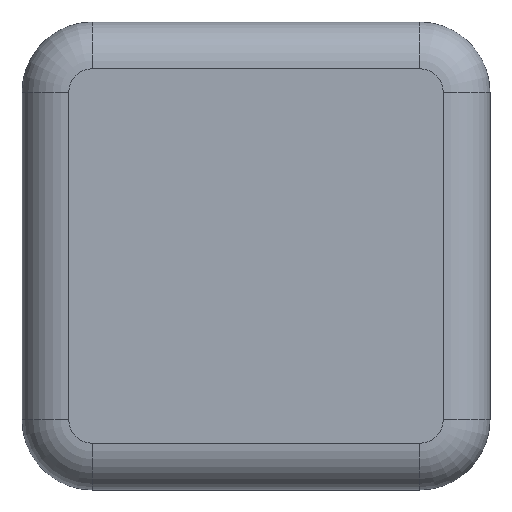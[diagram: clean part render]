
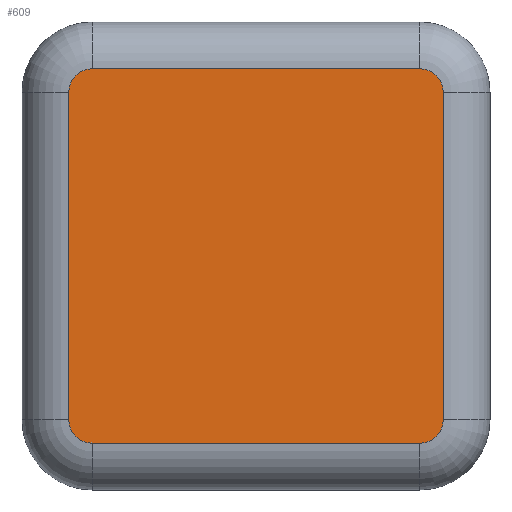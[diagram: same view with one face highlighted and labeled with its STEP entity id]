
A CAD part, front view. The second image highlights one B-rep face of the part: STEP entity #609.
In plain terms, the highlighted planar face has unit normal (0, -1, 0).
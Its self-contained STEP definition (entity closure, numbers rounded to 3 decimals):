
#22 = ORIENTED_EDGE ( 'NONE', *, *, #647, .T. ) ;
#30 = VERTEX_POINT ( 'NONE', #104 ) ;
#35 = EDGE_CURVE ( 'NONE', #30, #335, #1156, .T. ) ;
#82 = ORIENTED_EDGE ( 'NONE', *, *, #1021, .T. ) ;
#86 = DIRECTION ( 'NONE',  ( 0., -1., 0. ) ) ;
#103 = CARTESIAN_POINT ( 'NONE',  ( 7., -4., -8. ) ) ;
#104 = CARTESIAN_POINT ( 'NONE',  ( -8., -4., 7. ) ) ;
#112 = VERTEX_POINT ( 'NONE', #894 ) ;
#200 = EDGE_CURVE ( 'NONE', #1157, #112, #1129, .T. ) ;
#251 = ORIENTED_EDGE ( 'NONE', *, *, #35, .T. ) ;
#285 = AXIS2_PLACEMENT_3D ( 'NONE', #657, #1340, #771 ) ;
#312 = CARTESIAN_POINT ( 'NONE',  ( -7., -4., -8. ) ) ;
#319 = ORIENTED_EDGE ( 'NONE', *, *, #534, .T. ) ;
#335 = VERTEX_POINT ( 'NONE', #566 ) ;
#393 = EDGE_CURVE ( 'NONE', #595, #829, #960, .T. ) ;
#399 = ORIENTED_EDGE ( 'NONE', *, *, #393, .T. ) ;
#413 = DIRECTION ( 'NONE',  ( 0., -1., 0. ) ) ;
#433 = CIRCLE ( 'NONE', #285, 1. ) ;
#445 = CARTESIAN_POINT ( 'NONE',  ( 0., -4., 0. ) ) ;
#467 = CARTESIAN_POINT ( 'NONE',  ( 8., -4., -7. ) ) ;
#469 = EDGE_CURVE ( 'NONE', #335, #1157, #886, .T. ) ;
#470 = DIRECTION ( 'NONE',  ( -1., 0., 0. ) ) ;
#506 = CARTESIAN_POINT ( 'NONE',  ( -7., -4., 8. ) ) ;
#534 = EDGE_CURVE ( 'NONE', #112, #1336, #858, .T. ) ;
#535 = EDGE_CURVE ( 'NONE', #1409, #595, #856, .T. ) ;
#563 = AXIS2_PLACEMENT_3D ( 'NONE', #1053, #413, #1150 ) ;
#566 = CARTESIAN_POINT ( 'NONE',  ( -8., -4., -7. ) ) ;
#576 = PLANE ( 'NONE',  #1260 ) ;
#590 = DIRECTION ( 'NONE',  ( 0., -1., 0. ) ) ;
#595 = VERTEX_POINT ( 'NONE', #801 ) ;
#609 = ADVANCED_FACE ( 'NONE', ( #803 ), #576, .F. ) ;
#623 = CARTESIAN_POINT ( 'NONE',  ( -8., -4., -7. ) ) ;
#647 = EDGE_CURVE ( 'NONE', #1336, #1409, #752, .T. ) ;
#657 = CARTESIAN_POINT ( 'NONE',  ( -7., -4., 7. ) ) ;
#712 = CARTESIAN_POINT ( 'NONE',  ( 8., -4., 7. ) ) ;
#720 = CARTESIAN_POINT ( 'NONE',  ( -7., -4., 8. ) ) ;
#741 = VECTOR ( 'NONE', #791, 1000. ) ;
#752 = LINE ( 'NONE', #712, #741 ) ;
#771 = DIRECTION ( 'NONE',  ( 0., 0., 1. ) ) ;
#791 = DIRECTION ( 'NONE',  ( 0., 0., 1. ) ) ;
#801 = CARTESIAN_POINT ( 'NONE',  ( 7., -4., 8. ) ) ;
#803 = FACE_OUTER_BOUND ( 'NONE', #1375, .T. ) ;
#806 = DIRECTION ( 'NONE',  ( 0., 0., 1. ) ) ;
#815 = CARTESIAN_POINT ( 'NONE',  ( 7., -4., 7. ) ) ;
#829 = VERTEX_POINT ( 'NONE', #506 ) ;
#832 = DIRECTION ( 'NONE',  ( 1., 0., 0. ) ) ;
#856 = CIRCLE ( 'NONE', #1041, 1. ) ;
#858 = CIRCLE ( 'NONE', #1292, 1. ) ;
#886 = CIRCLE ( 'NONE', #563, 1. ) ;
#894 = CARTESIAN_POINT ( 'NONE',  ( 7., -4., -8. ) ) ;
#917 = DIRECTION ( 'NONE',  ( 0., 0., 1. ) ) ;
#938 = VECTOR ( 'NONE', #470, 1000. ) ;
#960 = LINE ( 'NONE', #720, #938 ) ;
#1005 = CARTESIAN_POINT ( 'NONE',  ( 8., -4., 7. ) ) ;
#1021 = EDGE_CURVE ( 'NONE', #829, #30, #433, .T. ) ;
#1041 = AXIS2_PLACEMENT_3D ( 'NONE', #815, #86, #917 ) ;
#1053 = CARTESIAN_POINT ( 'NONE',  ( -7., -4., -7. ) ) ;
#1094 = VECTOR ( 'NONE', #832, 1000. ) ;
#1129 = LINE ( 'NONE', #103, #1094 ) ;
#1150 = DIRECTION ( 'NONE',  ( 0., 0., 1. ) ) ;
#1154 = VECTOR ( 'NONE', #1410, 1000. ) ;
#1156 = LINE ( 'NONE', #623, #1154 ) ;
#1157 = VERTEX_POINT ( 'NONE', #312 ) ;
#1191 = CARTESIAN_POINT ( 'NONE',  ( 7., -4., -7. ) ) ;
#1258 = ORIENTED_EDGE ( 'NONE', *, *, #535, .T. ) ;
#1260 = AXIS2_PLACEMENT_3D ( 'NONE', #445, #1381, #806 ) ;
#1270 = ORIENTED_EDGE ( 'NONE', *, *, #200, .T. ) ;
#1274 = DIRECTION ( 'NONE',  ( 0., 0., 1. ) ) ;
#1292 = AXIS2_PLACEMENT_3D ( 'NONE', #1191, #590, #1274 ) ;
#1336 = VERTEX_POINT ( 'NONE', #467 ) ;
#1340 = DIRECTION ( 'NONE',  ( 0., -1., 0. ) ) ;
#1375 = EDGE_LOOP ( 'NONE', ( #251, #1376, #1270, #319, #22, #1258, #399, #82 ) ) ;
#1376 = ORIENTED_EDGE ( 'NONE', *, *, #469, .T. ) ;
#1381 = DIRECTION ( 'NONE',  ( 0., 1., 0. ) ) ;
#1409 = VERTEX_POINT ( 'NONE', #1005 ) ;
#1410 = DIRECTION ( 'NONE',  ( 0., 0., -1. ) ) ;
